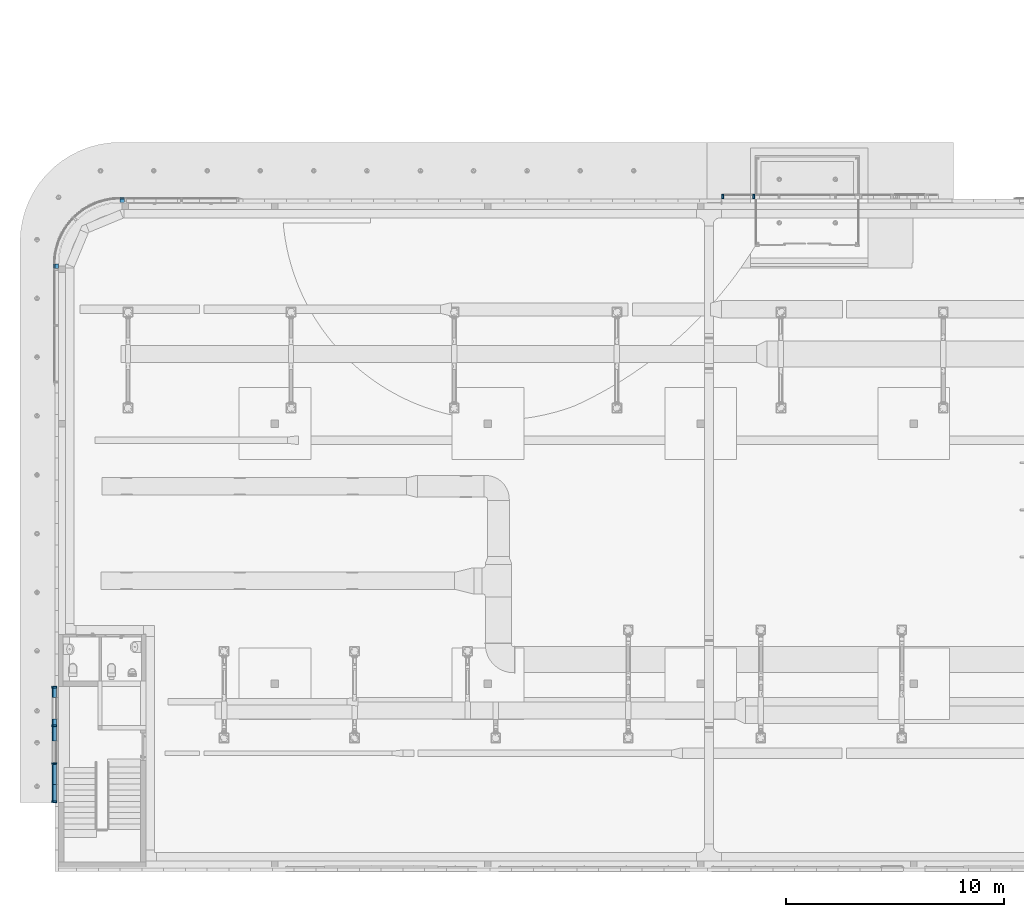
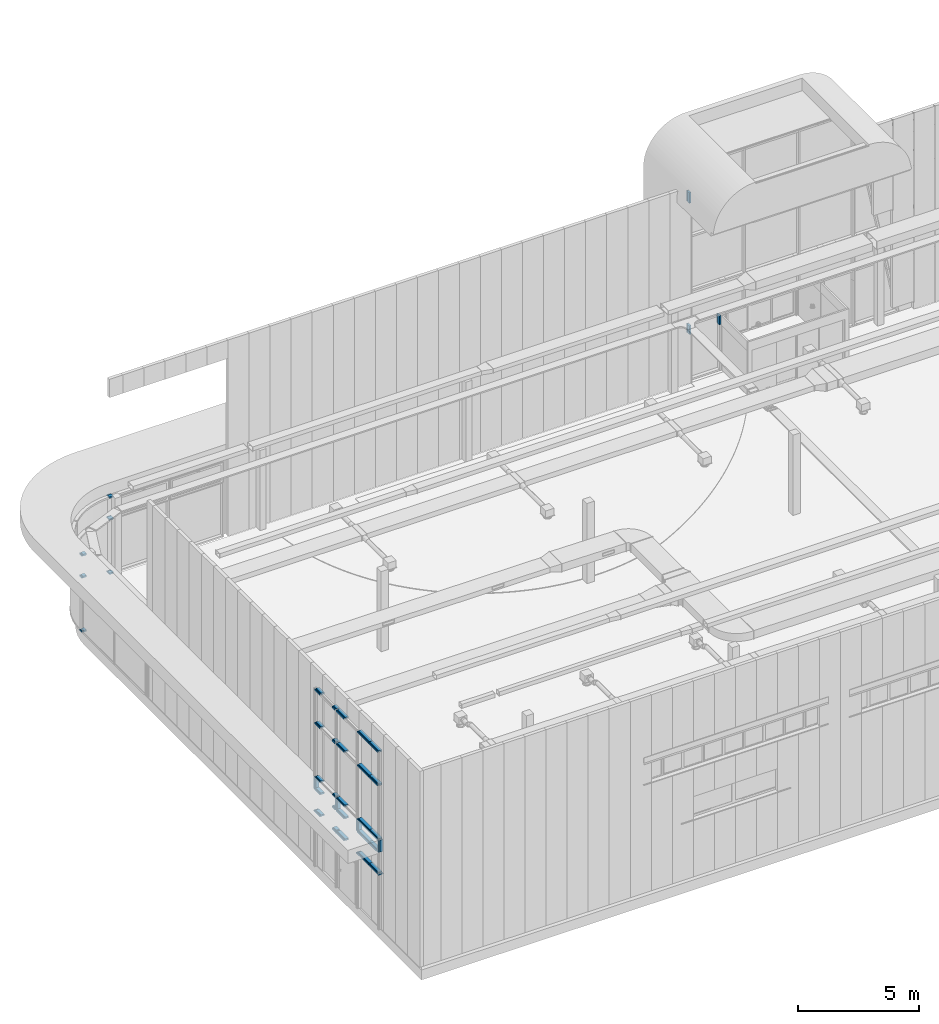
# One storey, part 191 of 302: 42 members, 4 elements without a shape of their own.
"""IFC2X3 building model written with IfcOpenShell, lengths in metres."""

from ifc_helpers import new_model, entity, si_unit, converted_unit, derived_unit, direction, frame, origin, place, context, subcontext, project, spatial, polyline, outline, extrude, source, transform, mapped, material, type_object, type_shapes, element, aggregate, save


model = new_model("IFC2X3")

# Units and contexts
model_context = context("Model", 3, precision=1e-05, world=origin(), true_north=direction((6.12303176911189e-17, 1.0)))
body_context = subcontext(model_context, "Body", "Model", "MODEL_VIEW")
ifc_project = project(units=[si_unit("LENGTHUNIT", "METRE"), si_unit("AREAUNIT", "SQUARE_METRE"), si_unit("VOLUMEUNIT", "CUBIC_METRE"), converted_unit("PLANEANGLEUNIT", "DEGREE", entity("IfcRatioMeasure", 0.0174532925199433), si_unit("PLANEANGLEUNIT", "RADIAN"), dimensions=[0, 0, 0, 0, 0, 0, 0]), si_unit("MASSUNIT", "GRAM", prefix="KILO"), derived_unit("MASSDENSITYUNIT", [(si_unit("MASSUNIT", "GRAM", prefix="KILO"), 1), (si_unit("LENGTHUNIT", "METRE"), -3)]), derived_unit("MOMENTOFINERTIAUNIT", [(si_unit("LENGTHUNIT", "METRE"), 4)]), si_unit("TIMEUNIT", "SECOND"), si_unit("FREQUENCYUNIT", "HERTZ"), si_unit("THERMODYNAMICTEMPERATUREUNIT", "DEGREE_CELSIUS"), derived_unit("THERMALTRANSMITTANCEUNIT", [(si_unit("MASSUNIT", "GRAM", prefix="KILO"), 1), (si_unit("THERMODYNAMICTEMPERATUREUNIT", "KELVIN"), -1), (si_unit("TIMEUNIT", "SECOND"), -3)]), derived_unit("VOLUMETRICFLOWRATEUNIT", [(si_unit("LENGTHUNIT", "METRE"), 3), (si_unit("TIMEUNIT", "SECOND"), -1)]), si_unit("ELECTRICCURRENTUNIT", "AMPERE"), si_unit("ELECTRICVOLTAGEUNIT", "VOLT"), si_unit("POWERUNIT", "WATT"), si_unit("FORCEUNIT", "NEWTON", prefix="KILO"), si_unit("ILLUMINANCEUNIT", "LUX"), si_unit("LUMINOUSFLUXUNIT", "LUMEN"), si_unit("LUMINOUSINTENSITYUNIT", "CANDELA"), derived_unit("USERDEFINED", [(si_unit("MASSUNIT", "GRAM", prefix="KILO"), -1), (si_unit("LENGTHUNIT", "METRE"), -2), (si_unit("TIMEUNIT", "SECOND"), 3), (si_unit("LUMINOUSFLUXUNIT", "LUMEN"), 1)]), derived_unit("LINEARVELOCITYUNIT", [(si_unit("LENGTHUNIT", "METRE"), 1), (si_unit("TIMEUNIT", "SECOND"), -1)]), si_unit("PRESSUREUNIT", "PASCAL"), derived_unit("USERDEFINED", [(si_unit("LENGTHUNIT", "METRE"), -2), (si_unit("MASSUNIT", "GRAM", prefix="KILO"), 1), (si_unit("TIMEUNIT", "SECOND"), -2)]), derived_unit("LINEARFORCEUNIT", [(si_unit("MASSUNIT", "GRAM", prefix="KILO"), 1), (si_unit("LENGTHUNIT", "METRE"), 1), (si_unit("TIMEUNIT", "SECOND"), -2), (si_unit("LENGTHUNIT", "METRE"), -1)]), derived_unit("PLANARFORCEUNIT", [(si_unit("MASSUNIT", "GRAM", prefix="KILO"), 1), (si_unit("LENGTHUNIT", "METRE"), 1), (si_unit("TIMEUNIT", "SECOND"), -2), (si_unit("LENGTHUNIT", "METRE"), -2)])], contexts=[model_context])

# Site, building, storey
site_placement = place(None, origin())
site = spatial("IfcSite", under=ifc_project, at=site_placement, Name="Default", CompositionType="ELEMENT")
building_placement = place(site_placement, origin())
building = spatial("IfcBuilding", under=site, at=building_placement, CompositionType="ELEMENT")
storey_placement = place(building_placement, frame((0.0, 0.0, -1.3)))
storey = spatial("IfcBuildingStorey", under=building, at=storey_placement, Name="00_EG", CompositionType="ELEMENT", Elevation=-1.3)

# Curtain wall, members
curtain_wall_type_1 = type_object("IfcCurtainWallType", Name="Fassade:Sandwichpaneele 16cm", PredefinedType="NOTDEFINED")
curtain_wall_1_placement = place(storey_placement, frame((0.0, 0.0, 1.3)))
curtain_wall_1 = element("IfcCurtainWall", 1, at=curtain_wall_1_placement, inside=storey, type_object=curtain_wall_type_1, Name="Fassade:Sandwichpaneele 16cm", ObjectType="Fassade:Sandwichpaneele 16cm")
ifc_material = material(Name="Prepainted_Steel-ArcelorMittal_Construction_HAIRULTRA-35-CORAL-4309-[RAL_3000]")
member_type_1 = type_object("IfcMemberType", Name="Rectangular Mullion:Fassadenrahmen Typ 1", PredefinedType="MULLION", material=ifc_material)
shared_shape_1 = source(origin(), body_context, "Body", "SweptSolid", [
    extrude(outline(polyline([(-0.155, -0.04), (0.00499999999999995, -0.04), (0.00499999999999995, -0.02), (0.04, -0.02), (0.04, -0.04), (0.065, -0.04), (0.065, 0.04), (0.04, 0.04), (0.04, 0.02), (0.00499999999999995, 0.02), (0.00499999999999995, 0.04), (-0.155, 0.04), (-0.155, -0.04)])), frame((0.0, -0.155, -0.6), z_axis=(0.0, 0.0, 1.0), x_axis=(0.0, -1.0, 0.0)), (0.0, 0.0, 1.0), 0.6),
])
type_shapes(member_type_1, [shared_shape_1])
member_1_placement = place(storey_placement, frame((-266.760111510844, 23.283088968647, 5.17), z_axis=(0.0, 0.0, -1.0), x_axis=(0.0, 1.0, 0.0)))
member_1 = element("IfcMember", 2, at=member_1_placement, type_object=member_type_1, material=ifc_material, Name="Rectangular Mullion:Fassadenrahmen Typ 1", ObjectType="Rectangular Mullion:Fassadenrahmen Typ 1", context=body_context, shape_type="MappedRepresentation", body=[
    mapped(shared_shape_1, transform((0.0, 0.0, 0.0), scale=1.0)),
])
member_2_placement = place(storey_placement, frame((-266.760111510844, 18.023088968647, 5.17), z_axis=(0.0, 0.0, -1.0), x_axis=(0.0, 1.0, 0.0)))
member_2 = element("IfcMember", 3, at=member_2_placement, type_object=member_type_1, material=ifc_material, Name="Rectangular Mullion:Fassadenrahmen Typ 1", ObjectType="Rectangular Mullion:Fassadenrahmen Typ 1", context=body_context, shape_type="MappedRepresentation", body=[
    mapped(shared_shape_1, transform((0.0, 0.0, 0.0), scale=1.0)),
])
member_3_placement = place(storey_placement, frame((-266.760111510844, 21.5230889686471, 5.17), z_axis=(0.0, 0.0, -1.0), x_axis=(0.0, 1.0, 0.0)))
member_3 = element("IfcMember", 4, at=member_3_placement, type_object=member_type_1, material=ifc_material, Name="Rectangular Mullion:Fassadenrahmen Typ 1", ObjectType="Rectangular Mullion:Fassadenrahmen Typ 1", context=body_context, shape_type="MappedRepresentation", body=[
    mapped(shared_shape_1, transform((0.0, 0.0, 0.0), scale=1.0)),
])
member_4_placement = place(storey_placement, frame((-266.760111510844, 19.7830889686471, 5.17), z_axis=(0.0, 0.0, -1.0), x_axis=(0.0, 1.0, 0.0)))
member_4 = element("IfcMember", 5, at=member_4_placement, type_object=member_type_1, material=ifc_material, Name="Rectangular Mullion:Fassadenrahmen Typ 1", ObjectType="Rectangular Mullion:Fassadenrahmen Typ 1", context=body_context, shape_type="MappedRepresentation", body=[
    mapped(shared_shape_1, transform((0.0, 0.0, 0.0), scale=1.0)),
])
member_type_2 = type_object("IfcMemberType", Name="Rectangular Mullion:Fassadenrahmen Typ 1", PredefinedType="MULLION", material=ifc_material)
shared_shape_2 = source(origin(), body_context, "Body", "SweptSolid", [
    extrude(outline(polyline([(-0.155, -0.04), (0.00499999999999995, -0.04), (0.00499999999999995, -0.02), (0.04, -0.02), (0.04, -0.04), (0.065, -0.04), (0.065, 0.04), (0.04, 0.04), (0.04, 0.02), (0.00499999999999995, 0.02), (0.00499999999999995, 0.04), (-0.155, 0.04), (-0.155, -0.04)])), frame((0.0, -0.155, -0.755000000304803), z_axis=(0.0, 0.0, 1.0), x_axis=(0.0, -1.0, 0.0)), (0.0, 0.0, 1.0), 0.755000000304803),
])
type_shapes(member_type_2, [shared_shape_2])
member_5_placement = place(storey_placement, frame((-266.760111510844, 18.8180889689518, 10.18), z_axis=(0.0, 1.0, 0.0), x_axis=(0.0, 0.0, 1.0)))
member_5 = element("IfcMember", 6, at=member_5_placement, type_object=member_type_2, material=ifc_material, Name="Rectangular Mullion:Fassadenrahmen Typ 1", ObjectType="Rectangular Mullion:Fassadenrahmen Typ 1", context=body_context, shape_type="MappedRepresentation", body=[
    mapped(shared_shape_2, transform((0.0, 0.0, 0.0), scale=1.0)),
])
member_6_placement = place(storey_placement, frame((-266.760111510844, 18.8180889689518, 8.5), z_axis=(0.0, 1.0, 0.0), x_axis=(0.0, 0.0, 1.0)))
member_6 = element("IfcMember", 7, at=member_6_placement, type_object=member_type_2, material=ifc_material, Name="Rectangular Mullion:Fassadenrahmen Typ 1", ObjectType="Rectangular Mullion:Fassadenrahmen Typ 1", context=body_context, shape_type="MappedRepresentation", body=[
    mapped(shared_shape_2, transform((0.0, 0.0, 0.0), scale=1.0)),
])
member_7_placement = place(storey_placement, frame((-266.760111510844, 18.8180889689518, 5.77), z_axis=(0.0, 1.0, 0.0), x_axis=(0.0, 0.0, 1.0)))
member_7 = element("IfcMember", 8, at=member_7_placement, type_object=member_type_2, material=ifc_material, Name="Rectangular Mullion:Fassadenrahmen Typ 1", ObjectType="Rectangular Mullion:Fassadenrahmen Typ 1", context=body_context, shape_type="MappedRepresentation", body=[
    mapped(shared_shape_2, transform((0.0, 0.0, 0.0), scale=1.0)),
])
member_8_placement = place(storey_placement, frame((-266.760111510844, 18.8180889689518, 5.17), z_axis=(0.0, 1.0, 0.0), x_axis=(0.0, 0.0, 1.0)))
member_8 = element("IfcMember", 9, at=member_8_placement, type_object=member_type_2, material=ifc_material, Name="Rectangular Mullion:Fassadenrahmen Typ 1", ObjectType="Rectangular Mullion:Fassadenrahmen Typ 1", context=body_context, shape_type="MappedRepresentation", body=[
    mapped(shared_shape_2, transform((0.0, 0.0, 0.0), scale=1.0)),
])
member_9_placement = place(storey_placement, frame((-266.760111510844, 18.8180889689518, 4.07), z_axis=(0.0, 1.0, 0.0), x_axis=(0.0, 0.0, 1.0)))
member_9 = element("IfcMember", 10, at=member_9_placement, type_object=member_type_2, material=ifc_material, Name="Rectangular Mullion:Fassadenrahmen Typ 1", ObjectType="Rectangular Mullion:Fassadenrahmen Typ 1", context=body_context, shape_type="MappedRepresentation", body=[
    mapped(shared_shape_2, transform((0.0, 0.0, 0.0), scale=1.0)),
])
member_type_3 = type_object("IfcMemberType", Name="Rectangular Mullion:Fassadenrahmen Typ 1", PredefinedType="MULLION", material=ifc_material)
shared_shape_3 = source(origin(), body_context, "Body", "SweptSolid", [
    extrude(outline(polyline([(-0.155, -0.04), (0.00499999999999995, -0.04), (0.00499999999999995, -0.02), (0.04, -0.02), (0.04, -0.04), (0.065, -0.04), (0.065, 0.04), (0.04, 0.04), (0.04, 0.02), (0.00499999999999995, 0.02), (0.00499999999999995, 0.04), (-0.155, 0.04), (-0.155, -0.04)])), frame((0.0, -0.155, -0.424999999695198), z_axis=(0.0, 0.0, 1.0), x_axis=(0.0, -1.0, 0.0)), (0.0, 0.0, 1.0), 0.424999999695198),
])
type_shapes(member_type_3, [shared_shape_3])
member_10_placement = place(storey_placement, frame((-266.760111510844, 23.243088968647, 10.18), z_axis=(0.0, 1.0, 0.0), x_axis=(0.0, 0.0, 1.0)))
member_10 = element("IfcMember", 11, at=member_10_placement, type_object=member_type_3, material=ifc_material, Name="Rectangular Mullion:Fassadenrahmen Typ 1", ObjectType="Rectangular Mullion:Fassadenrahmen Typ 1", context=body_context, shape_type="MappedRepresentation", body=[
    mapped(shared_shape_3, transform((0.0, 0.0, 0.0), scale=1.0)),
])
member_11_placement = place(storey_placement, frame((-266.760111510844, 23.243088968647, 8.5), z_axis=(0.0, 1.0, 0.0), x_axis=(0.0, 0.0, 1.0)))
member_11 = element("IfcMember", 12, at=member_11_placement, type_object=member_type_3, material=ifc_material, Name="Rectangular Mullion:Fassadenrahmen Typ 1", ObjectType="Rectangular Mullion:Fassadenrahmen Typ 1", context=body_context, shape_type="MappedRepresentation", body=[
    mapped(shared_shape_3, transform((0.0, 0.0, 0.0), scale=1.0)),
])
member_12_placement = place(storey_placement, frame((-266.760111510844, 23.243088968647, 5.77), z_axis=(0.0, 1.0, 0.0), x_axis=(0.0, 0.0, 1.0)))
member_12 = element("IfcMember", 13, at=member_12_placement, type_object=member_type_3, material=ifc_material, Name="Rectangular Mullion:Fassadenrahmen Typ 1", ObjectType="Rectangular Mullion:Fassadenrahmen Typ 1", context=body_context, shape_type="MappedRepresentation", body=[
    mapped(shared_shape_3, transform((0.0, 0.0, 0.0), scale=1.0)),
])
member_13_placement = place(storey_placement, frame((-266.760111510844, 23.243088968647, 5.17), z_axis=(0.0, 1.0, 0.0), x_axis=(0.0, 0.0, 1.0)))
member_13 = element("IfcMember", 14, at=member_13_placement, type_object=member_type_3, material=ifc_material, Name="Rectangular Mullion:Fassadenrahmen Typ 1", ObjectType="Rectangular Mullion:Fassadenrahmen Typ 1", context=body_context, shape_type="MappedRepresentation", body=[
    mapped(shared_shape_3, transform((0.0, 0.0, 0.0), scale=1.0)),
])
member_14_placement = place(storey_placement, frame((-266.760111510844, 23.243088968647, 4.07), z_axis=(0.0, 1.0, 0.0), x_axis=(0.0, 0.0, 1.0)))
member_14 = element("IfcMember", 15, at=member_14_placement, type_object=member_type_3, material=ifc_material, Name="Rectangular Mullion:Fassadenrahmen Typ 1", ObjectType="Rectangular Mullion:Fassadenrahmen Typ 1", context=body_context, shape_type="MappedRepresentation", body=[
    mapped(shared_shape_3, transform((0.0, 0.0, 0.0), scale=1.0)),
])
member_type_4 = type_object("IfcMemberType", Name="Rectangular Mullion:Fassadenrahmen Typ 1", PredefinedType="MULLION", material=ifc_material)
shared_shape_4 = source(origin(), body_context, "Body", "SweptSolid", [
    extrude(outline(polyline([(-0.155, -0.04), (0.00499999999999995, -0.04), (0.00499999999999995, -0.02), (0.04, -0.02), (0.04, -0.04), (0.065, -0.04), (0.065, 0.04), (0.04, 0.04), (0.04, 0.02), (0.00499999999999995, 0.02), (0.00499999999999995, 0.04), (-0.155, 0.04), (-0.155, -0.04)])), frame((0.0, -0.155, -0.664999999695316), z_axis=(0.0, 0.0, 1.0), x_axis=(0.0, -1.0, 0.0)), (0.0, 0.0, 1.0), 0.664999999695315),
])
type_shapes(member_type_4, [shared_shape_4])
member_15_placement = place(storey_placement, frame((-266.760111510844, 21.4830889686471, 10.18), z_axis=(0.0, 1.0, 0.0), x_axis=(0.0, 0.0, 1.0)))
member_15 = element("IfcMember", 16, at=member_15_placement, type_object=member_type_4, material=ifc_material, Name="Rectangular Mullion:Fassadenrahmen Typ 1", ObjectType="Rectangular Mullion:Fassadenrahmen Typ 1", context=body_context, shape_type="MappedRepresentation", body=[
    mapped(shared_shape_4, transform((0.0, 0.0, 0.0), scale=1.0)),
])
member_16_placement = place(storey_placement, frame((-266.760111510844, 21.4830889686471, 8.5), z_axis=(0.0, 1.0, 0.0), x_axis=(0.0, 0.0, 1.0)))
member_16 = element("IfcMember", 17, at=member_16_placement, type_object=member_type_4, material=ifc_material, Name="Rectangular Mullion:Fassadenrahmen Typ 1", ObjectType="Rectangular Mullion:Fassadenrahmen Typ 1", context=body_context, shape_type="MappedRepresentation", body=[
    mapped(shared_shape_4, transform((0.0, 0.0, 0.0), scale=1.0)),
])
member_17_placement = place(storey_placement, frame((-266.760111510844, 21.4830889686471, 5.77), z_axis=(0.0, 1.0, 0.0), x_axis=(0.0, 0.0, 1.0)))
member_17 = element("IfcMember", 18, at=member_17_placement, type_object=member_type_4, material=ifc_material, Name="Rectangular Mullion:Fassadenrahmen Typ 1", ObjectType="Rectangular Mullion:Fassadenrahmen Typ 1", context=body_context, shape_type="MappedRepresentation", body=[
    mapped(shared_shape_4, transform((0.0, 0.0, 0.0), scale=1.0)),
])
member_18_placement = place(storey_placement, frame((-266.760111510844, 21.4830889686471, 5.17), z_axis=(0.0, 1.0, 0.0), x_axis=(0.0, 0.0, 1.0)))
member_18 = element("IfcMember", 19, at=member_18_placement, type_object=member_type_4, material=ifc_material, Name="Rectangular Mullion:Fassadenrahmen Typ 1", ObjectType="Rectangular Mullion:Fassadenrahmen Typ 1", context=body_context, shape_type="MappedRepresentation", body=[
    mapped(shared_shape_4, transform((0.0, 0.0, 0.0), scale=1.0)),
])
member_19_placement = place(storey_placement, frame((-266.760111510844, 21.4830889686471, 4.07), z_axis=(0.0, 1.0, 0.0), x_axis=(0.0, 0.0, 1.0)))
member_19 = element("IfcMember", 20, at=member_19_placement, type_object=member_type_4, material=ifc_material, Name="Rectangular Mullion:Fassadenrahmen Typ 1", ObjectType="Rectangular Mullion:Fassadenrahmen Typ 1", context=body_context, shape_type="MappedRepresentation", body=[
    mapped(shared_shape_4, transform((0.0, 0.0, 0.0), scale=1.0)),
])
member_type_5 = type_object("IfcMemberType", Name="Rectangular Mullion:Fassadenrahmen Typ 1", PredefinedType="MULLION", material=ifc_material)
shared_shape_5 = source(origin(), body_context, "Body", "SweptSolid", [
    extrude(outline(polyline([(-0.155, -0.04), (0.00499999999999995, -0.04), (0.00499999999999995, -0.02), (0.04, -0.02), (0.04, -0.04), (0.065, -0.04), (0.065, 0.04), (0.04, 0.04), (0.04, 0.02), (0.00499999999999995, 0.02), (0.00499999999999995, 0.04), (-0.155, 0.04), (-0.155, -0.04)])), frame((0.0, -0.155, -0.92499999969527), z_axis=(0.0, 0.0, 1.0), x_axis=(0.0, -1.0, 0.0)), (0.0, 0.0, 1.0), 0.924999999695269),
])
type_shapes(member_type_5, [shared_shape_5])
member_20_placement = place(storey_placement, frame((-266.760111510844, 19.7430889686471, 10.18), z_axis=(0.0, 1.0, 0.0), x_axis=(0.0, 0.0, 1.0)))
member_20 = element("IfcMember", 21, at=member_20_placement, type_object=member_type_5, material=ifc_material, Name="Rectangular Mullion:Fassadenrahmen Typ 1", ObjectType="Rectangular Mullion:Fassadenrahmen Typ 1", context=body_context, shape_type="MappedRepresentation", body=[
    mapped(shared_shape_5, transform((0.0, 0.0, 0.0), scale=1.0)),
])
member_21_placement = place(storey_placement, frame((-266.760111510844, 19.7430889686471, 8.5), z_axis=(0.0, 1.0, 0.0), x_axis=(0.0, 0.0, 1.0)))
member_21 = element("IfcMember", 22, at=member_21_placement, type_object=member_type_5, material=ifc_material, Name="Rectangular Mullion:Fassadenrahmen Typ 1", ObjectType="Rectangular Mullion:Fassadenrahmen Typ 1", context=body_context, shape_type="MappedRepresentation", body=[
    mapped(shared_shape_5, transform((0.0, 0.0, 0.0), scale=1.0)),
])
member_22_placement = place(storey_placement, frame((-266.760111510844, 19.7430889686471, 5.77), z_axis=(0.0, 1.0, 0.0), x_axis=(0.0, 0.0, 1.0)))
member_22 = element("IfcMember", 23, at=member_22_placement, type_object=member_type_5, material=ifc_material, Name="Rectangular Mullion:Fassadenrahmen Typ 1", ObjectType="Rectangular Mullion:Fassadenrahmen Typ 1", context=body_context, shape_type="MappedRepresentation", body=[
    mapped(shared_shape_5, transform((0.0, 0.0, 0.0), scale=1.0)),
])
member_23_placement = place(storey_placement, frame((-266.760111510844, 19.7430889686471, 5.17), z_axis=(0.0, 1.0, 0.0), x_axis=(0.0, 0.0, 1.0)))
member_23 = element("IfcMember", 24, at=member_23_placement, type_object=member_type_5, material=ifc_material, Name="Rectangular Mullion:Fassadenrahmen Typ 1", ObjectType="Rectangular Mullion:Fassadenrahmen Typ 1", context=body_context, shape_type="MappedRepresentation", body=[
    mapped(shared_shape_5, transform((0.0, 0.0, 0.0), scale=1.0)),
])
member_24_placement = place(storey_placement, frame((-266.760111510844, 19.7430889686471, 4.07), z_axis=(0.0, 1.0, 0.0), x_axis=(0.0, 0.0, 1.0)))
member_24 = element("IfcMember", 25, at=member_24_placement, type_object=member_type_5, material=ifc_material, Name="Rectangular Mullion:Fassadenrahmen Typ 1", ObjectType="Rectangular Mullion:Fassadenrahmen Typ 1", context=body_context, shape_type="MappedRepresentation", body=[
    mapped(shared_shape_5, transform((0.0, 0.0, 0.0), scale=1.0)),
])
member_type_6 = type_object("IfcMemberType", Name="Rectangular Mullion:Fassadenrahmen Typ 1", PredefinedType="MULLION", material=ifc_material)
shared_shape_6 = source(origin(), body_context, "Body", "SweptSolid", [
    extrude(outline(polyline([(-0.155, -0.04), (0.00499999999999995, -0.04), (0.00499999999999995, -0.02), (0.04, -0.02), (0.04, -0.04), (0.065, -0.04), (0.065, 0.04), (0.04, 0.04), (0.04, 0.02), (0.00499999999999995, 0.02), (0.00499999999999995, 0.04), (-0.155, 0.04), (-0.155, -0.04)])), frame((0.0, -0.155, -0.255000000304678), z_axis=(0.0, 0.0, 1.0), x_axis=(0.0, -1.0, 0.0)), (0.0, 0.0, 1.0), 0.255000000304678),
])
type_shapes(member_type_6, [shared_shape_6])
member_25_placement = place(storey_placement, frame((-266.760111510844, 21.8180889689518, 10.18), z_axis=(0.0, 1.0, 0.0), x_axis=(0.0, 0.0, 1.0)))
member_25 = element("IfcMember", 26, at=member_25_placement, type_object=member_type_6, material=ifc_material, Name="Rectangular Mullion:Fassadenrahmen Typ 1", ObjectType="Rectangular Mullion:Fassadenrahmen Typ 1", context=body_context, shape_type="MappedRepresentation", body=[
    mapped(shared_shape_6, transform((0.0, 0.0, 0.0), scale=1.0)),
])
member_26_placement = place(storey_placement, frame((-266.760111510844, 21.8180889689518, 8.5), z_axis=(0.0, 1.0, 0.0), x_axis=(0.0, 0.0, 1.0)))
member_26 = element("IfcMember", 27, at=member_26_placement, type_object=member_type_6, material=ifc_material, Name="Rectangular Mullion:Fassadenrahmen Typ 1", ObjectType="Rectangular Mullion:Fassadenrahmen Typ 1", context=body_context, shape_type="MappedRepresentation", body=[
    mapped(shared_shape_6, transform((0.0, 0.0, 0.0), scale=1.0)),
])
member_27_placement = place(storey_placement, frame((-266.760111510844, 21.8180889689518, 5.77), z_axis=(0.0, 1.0, 0.0), x_axis=(0.0, 0.0, 1.0)))
member_27 = element("IfcMember", 28, at=member_27_placement, type_object=member_type_6, material=ifc_material, Name="Rectangular Mullion:Fassadenrahmen Typ 1", ObjectType="Rectangular Mullion:Fassadenrahmen Typ 1", context=body_context, shape_type="MappedRepresentation", body=[
    mapped(shared_shape_6, transform((0.0, 0.0, 0.0), scale=1.0)),
])
member_28_placement = place(storey_placement, frame((-266.760111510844, 21.8180889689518, 5.17), z_axis=(0.0, 1.0, 0.0), x_axis=(0.0, 0.0, 1.0)))
member_28 = element("IfcMember", 29, at=member_28_placement, type_object=member_type_6, material=ifc_material, Name="Rectangular Mullion:Fassadenrahmen Typ 1", ObjectType="Rectangular Mullion:Fassadenrahmen Typ 1", context=body_context, shape_type="MappedRepresentation", body=[
    mapped(shared_shape_6, transform((0.0, 0.0, 0.0), scale=1.0)),
])
member_29_placement = place(storey_placement, frame((-266.760111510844, 21.8180889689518, 4.07), z_axis=(0.0, 1.0, 0.0), x_axis=(0.0, 0.0, 1.0)))
member_29 = element("IfcMember", 30, at=member_29_placement, type_object=member_type_6, material=ifc_material, Name="Rectangular Mullion:Fassadenrahmen Typ 1", ObjectType="Rectangular Mullion:Fassadenrahmen Typ 1", context=body_context, shape_type="MappedRepresentation", body=[
    mapped(shared_shape_6, transform((0.0, 0.0, 0.0), scale=1.0)),
])
member_type_7 = type_object("IfcMemberType", Name="Rectangular Mullion:Fassadenrahmen Typ 1", PredefinedType="MULLION", material=ifc_material)
shared_shape_7 = source(origin(), body_context, "Body", "SweptSolid", [
    extrude(outline(polyline([(-0.155, -0.04), (0.00499999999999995, -0.04), (0.00499999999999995, -0.02), (0.04, -0.02), (0.04, -0.04), (0.065, -0.04), (0.065, 0.04), (0.04, 0.04), (0.04, 0.02), (0.00499999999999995, 0.02), (0.00499999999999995, 0.04), (-0.155, 0.04), (-0.155, -0.04)])), frame((0.0, -0.155, -0.0400000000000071), z_axis=(0.0, 0.0, 1.0), x_axis=(0.0, -1.0, 0.0)), (0.0, 0.0, 1.0), 0.0400000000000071),
])
type_shapes(member_type_7, [shared_shape_7])
member_30_placement = place(storey_placement, frame((-266.760111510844, 23.283088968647, 4.02999999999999), z_axis=(0.0, 0.0, -1.0), x_axis=(0.0, 1.0, 0.0)))
member_30 = element("IfcMember", 31, at=member_30_placement, type_object=member_type_7, material=ifc_material, Name="Rectangular Mullion:Fassadenrahmen Typ 1", ObjectType="Rectangular Mullion:Fassadenrahmen Typ 1", context=body_context, shape_type="MappedRepresentation", body=[
    mapped(shared_shape_7, transform((0.0, 0.0, 0.0), scale=1.0)),
])
member_31_placement = place(storey_placement, frame((-266.760111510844, 18.023088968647, 4.02999999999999), z_axis=(0.0, 0.0, -1.0), x_axis=(0.0, 1.0, 0.0)))
member_31 = element("IfcMember", 32, at=member_31_placement, type_object=member_type_7, material=ifc_material, Name="Rectangular Mullion:Fassadenrahmen Typ 1", ObjectType="Rectangular Mullion:Fassadenrahmen Typ 1", context=body_context, shape_type="MappedRepresentation", body=[
    mapped(shared_shape_7, transform((0.0, 0.0, 0.0), scale=1.0)),
])
member_32_placement = place(storey_placement, frame((-266.760111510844, 21.5230889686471, 4.02999999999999), z_axis=(0.0, 0.0, -1.0), x_axis=(0.0, 1.0, 0.0)))
member_32 = element("IfcMember", 33, at=member_32_placement, type_object=member_type_7, material=ifc_material, Name="Rectangular Mullion:Fassadenrahmen Typ 1", ObjectType="Rectangular Mullion:Fassadenrahmen Typ 1", context=body_context, shape_type="MappedRepresentation", body=[
    mapped(shared_shape_7, transform((0.0, 0.0, 0.0), scale=1.0)),
])
member_33_placement = place(storey_placement, frame((-266.760111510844, 19.7830889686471, 4.02999999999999), z_axis=(0.0, 0.0, -1.0), x_axis=(0.0, 1.0, 0.0)))
member_33 = element("IfcMember", 34, at=member_33_placement, type_object=member_type_7, material=ifc_material, Name="Rectangular Mullion:Fassadenrahmen Typ 1", ObjectType="Rectangular Mullion:Fassadenrahmen Typ 1", context=body_context, shape_type="MappedRepresentation", body=[
    mapped(shared_shape_7, transform((0.0, 0.0, 0.0), scale=1.0)),
])
aggregate(curtain_wall_1, [member_1, member_5, member_10, member_15, member_20, member_6, member_11, member_16, member_21, member_2, member_7, member_12, member_17, member_22, member_8, member_13, member_18, member_23, member_9, member_14, member_24, member_25, member_26, member_27, member_28, member_29, member_3, member_4, member_30, member_31, member_32, member_33, member_19])

curtain_wall_type_2 = type_object("IfcCurtainWallType", Name="Fassade:Glasfassade", PredefinedType="NOTDEFINED")
curtain_wall_2_placement = place(storey_placement, frame((0.0, 0.0, 1.3)))
curtain_wall_2 = element("IfcCurtainWall", 35, at=curtain_wall_2_placement, inside=storey, type_object=curtain_wall_type_2, Name="Fassade:Glasfassade", ObjectType="Fassade:Glasfassade")
member_type_8 = type_object("IfcMemberType", Name="Rectangular Mullion:Fassadenrahmen Typ 1", PredefinedType="MULLION", material=ifc_material)
shared_shape_8 = source(origin(), body_context, "Body", "SweptSolid", [
    extrude(outline(polyline([(-0.065, -0.04), (-0.04, -0.04), (-0.04, -0.02), (-0.00499999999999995, -0.02), (-0.00499999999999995, -0.04), (0.155, -0.04), (0.155, 0.04), (-0.00499999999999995, 0.04), (-0.00499999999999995, 0.02), (-0.04, 0.02), (-0.04, 0.04), (-0.065, 0.04), (-0.065, -0.04)])), frame((0.0, 0.155, -0.450000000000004), z_axis=(0.0, 0.0, 1.0), x_axis=(0.0, -1.0, 0.0)), (0.0, 0.0, 1.0), 0.450000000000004),
])
type_shapes(member_type_8, [shared_shape_8])
member_34_placement = place(storey_placement, frame((-234.713861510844, 45.738088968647, 3.57999999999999), z_axis=(0.0, 0.0, -1.0), x_axis=(-1.0, 0.0, 0.0)))
member_34 = element("IfcMember", 36, at=member_34_placement, type_object=member_type_8, material=ifc_material, Name="Rectangular Mullion:Fassadenrahmen Typ 1", ObjectType="Rectangular Mullion:Fassadenrahmen Typ 1", context=body_context, shape_type="MappedRepresentation", body=[
    mapped(shared_shape_8, transform((0.0, 0.0, 0.0), scale=1.0)),
])
member_type_9 = type_object("IfcMemberType", Name="Rectangular Mullion:Fassadenrahmen Typ 1", PredefinedType="MULLION", material=ifc_material)
shared_shape_9 = source(origin(), body_context, "Body", "SweptSolid", [
    extrude(outline(polyline([(-0.065, -0.04), (-0.04, -0.04), (-0.04, -0.02), (-0.00499999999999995, -0.02), (-0.00499999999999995, -0.04), (0.155, -0.04), (0.155, 0.04), (-0.00499999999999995, 0.04), (-0.00499999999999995, 0.02), (-0.04, 0.02), (-0.04, 0.04), (-0.065, 0.04), (-0.065, -0.04)])), frame((-0.04, 0.155, -0.450000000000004), z_axis=(0.0, 0.0, 1.0), x_axis=(0.0, -1.0, 0.0)), (0.0, 0.0, 1.0), 0.450000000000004),
])
type_shapes(member_type_9, [shared_shape_9])
member_35_placement = place(storey_placement, frame((-236.178861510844, 45.738088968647, 3.57999999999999), z_axis=(0.0, 0.0, -1.0), x_axis=(-1.0, 0.0, 0.0)))
member_35 = element("IfcMember", 37, at=member_35_placement, type_object=member_type_9, material=ifc_material, Name="Rectangular Mullion:Fassadenrahmen Typ 1", ObjectType="Rectangular Mullion:Fassadenrahmen Typ 1", context=body_context, shape_type="MappedRepresentation", body=[
    mapped(shared_shape_9, transform((0.0, 0.0, 0.0), scale=1.0)),
])
member_type_10 = type_object("IfcMemberType", Name="Rectangular Mullion:Fassadenrahmen Typ 1", PredefinedType="MULLION", material=ifc_material)
shared_shape_10 = source(origin(), body_context, "Body", "SweptSolid", [
    extrude(outline(polyline([(-0.065, -0.04), (-0.04, -0.04), (-0.04, -0.02), (-0.00499999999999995, -0.02), (-0.00499999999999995, -0.04), (0.155, -0.04), (0.155, 0.04), (-0.00499999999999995, 0.04), (-0.00499999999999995, 0.02), (-0.04, 0.02), (-0.04, 0.04), (-0.065, 0.04), (-0.065, -0.04)])), frame((-0.04, 0.155, -0.535000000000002), z_axis=(0.0, 0.0, 1.0), x_axis=(0.0, -1.0, 0.0)), (0.0, 0.0, 1.0), 0.535000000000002),
])
type_shapes(member_type_10, [shared_shape_10])
member_36_placement = place(storey_placement, frame((-236.178861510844, 45.738088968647, 10.18), z_axis=(0.0, 0.0, -1.0), x_axis=(-1.0, 0.0, 0.0)))
member_36 = element("IfcMember", 38, at=member_36_placement, type_object=member_type_10, material=ifc_material, Name="Rectangular Mullion:Fassadenrahmen Typ 1", ObjectType="Rectangular Mullion:Fassadenrahmen Typ 1", context=body_context, shape_type="MappedRepresentation", body=[
    mapped(shared_shape_10, transform((0.0, 0.0, 0.0), scale=1.0)),
])
aggregate(curtain_wall_2, [member_34, member_35, member_36])

curtain_wall_3_placement = place(storey_placement, frame((0.0, 0.0, 1.3)))
curtain_wall_3 = element("IfcCurtainWall", 39, at=curtain_wall_3_placement, inside=storey, type_object=curtain_wall_type_2, Name="Fassade:Glasfassade", ObjectType="Fassade:Glasfassade")
member_type_11 = type_object("IfcMemberType", Name="Rectangular Mullion:Fassadenrahmen Typ 1", PredefinedType="MULLION", material=ifc_material)
shared_shape_11 = source(origin(), body_context, "Body", "SweptSolid", [
    extrude(outline(polyline([(-0.065, -0.04), (-0.04, -0.04), (-0.04, -0.02), (-0.00499999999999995, -0.02), (-0.00499999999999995, -0.04), (0.155, -0.04), (0.155, 0.04), (-0.00499999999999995, 0.04), (-0.00499999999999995, 0.02), (-0.04, 0.02), (-0.04, 0.04), (-0.065, 0.04), (-0.065, -0.04)])), frame((0.0, 0.155, -0.193997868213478), z_axis=(0.0, 0.0, 1.0), x_axis=(0.0, -1.0, 0.0)), (0.0, 0.0, 1.0), 0.193997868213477),
])
type_shapes(member_type_11, [shared_shape_11])
member_37_placement = place(storey_placement, frame((-266.680111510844, 42.5440911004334, 4.07000000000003), z_axis=(0.0, -1.0, 0.0), x_axis=(0.0, 0.0, 1.0)))
member_37 = element("IfcMember", 40, at=member_37_placement, type_object=member_type_11, material=ifc_material, Name="Rectangular Mullion:Fassadenrahmen Typ 1", ObjectType="Rectangular Mullion:Fassadenrahmen Typ 1", context=body_context, shape_type="MappedRepresentation", body=[
    mapped(shared_shape_11, transform((0.0, 0.0, 0.0), scale=1.0)),
])
member_type_12 = type_object("IfcMemberType", Name="Rectangular Mullion:Fassadenrahmen Typ 1", PredefinedType="MULLION", material=ifc_material)
shared_shape_12 = source(origin(), body_context, "Body", "SweptSolid", [
    extrude(outline(polyline([(-0.065, -0.04), (-0.04, -0.04), (-0.04, -0.02), (-0.00499999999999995, -0.02), (-0.00499999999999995, -0.04), (0.155, -0.04), (0.155, 0.04), (-0.00499999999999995, 0.04), (-0.00499999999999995, 0.02), (-0.04, 0.02), (-0.04, 0.04), (-0.065, 0.04), (-0.065, -0.04)])), frame((-0.04, 0.155, -0.193997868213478), z_axis=(0.0, 0.0, 1.0), x_axis=(0.0, -1.0, 0.0)), (0.0, 0.0, 1.0), 0.193997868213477),
])
type_shapes(member_type_12, [shared_shape_12])
member_38_placement = place(storey_placement, frame((-266.680111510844, 42.5440911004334, 5.21), z_axis=(0.0, -1.0, 0.0), x_axis=(0.0, 0.0, 1.0)))
member_38 = element("IfcMember", 41, at=member_38_placement, type_object=member_type_12, material=ifc_material, Name="Rectangular Mullion:Fassadenrahmen Typ 1", ObjectType="Rectangular Mullion:Fassadenrahmen Typ 1", context=body_context, shape_type="MappedRepresentation", body=[
    mapped(shared_shape_12, transform((0.0, 0.0, 0.0), scale=1.0)),
])
member_type_13 = type_object("IfcMemberType", Name="Rectangular Mullion:Fassadenrahmen Typ 1", PredefinedType="MULLION", material=ifc_material)
shared_shape_13 = source(origin(), body_context, "Body", "SweptSolid", [
    extrude(outline(polyline([(-0.0649999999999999, -0.04), (-0.04, -0.04), (-0.04, -0.02), (-0.00499999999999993, -0.02), (-0.00499999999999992, -0.04), (0.155, -0.0399999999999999), (0.155, 0.0400000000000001), (-0.00499999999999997, 0.04), (-0.00499999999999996, 0.02), (-0.04, 0.02), (-0.04, 0.04), (-0.065, 0.0399999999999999), (-0.0649999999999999, -0.04)])), frame((-0.04, 0.155, -0.193997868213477), z_axis=(0.0, 0.0, 1.0), x_axis=(0.0, -1.0, 0.0)), (0.0, 0.0, 1.0), 0.193997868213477),
])
type_shapes(member_type_13, [shared_shape_13])
member_39_placement = place(storey_placement, frame((-266.680111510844, 42.7380889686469, 1.3), z_axis=(0.0, 1.0, 0.0), x_axis=(0.0, 0.0, -1.0)))
member_39 = element("IfcMember", 42, at=member_39_placement, type_object=member_type_13, material=ifc_material, Name="Rectangular Mullion:Fassadenrahmen Typ 1", ObjectType="Rectangular Mullion:Fassadenrahmen Typ 1", context=body_context, shape_type="MappedRepresentation", body=[
    mapped(shared_shape_13, transform((0.0, 0.0, 0.0), scale=1.0)),
])
aggregate(curtain_wall_3, [member_37, member_39, member_38])

curtain_wall_4_placement = place(storey_placement, frame((0.0, 0.0, 1.3)))
curtain_wall_4 = element("IfcCurtainWall", 43, at=curtain_wall_4_placement, inside=storey, type_object=curtain_wall_type_2, Name="Fassade:Glasfassade", ObjectType="Fassade:Glasfassade")
member_type_14 = type_object("IfcMemberType", Name="Rectangular Mullion:Fassadenrahmen Typ 1", PredefinedType="MULLION", material=ifc_material)
shared_shape_14 = source(origin(), body_context, "Body", "SweptSolid", [
    extrude(outline(polyline([(-0.155, -0.04), (0.00499999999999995, -0.04), (0.00499999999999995, -0.02), (0.04, -0.02), (0.04, -0.04), (0.065, -0.04), (0.065, 0.04), (0.04, 0.04), (0.04, 0.02), (0.00499999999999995, 0.02), (0.00499999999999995, 0.04), (-0.155, 0.04), (-0.155, -0.04)])), frame((0.0, -0.155, -0.19399786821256), z_axis=(0.0, 0.0, 1.0), x_axis=(0.0, -1.0, 0.0)), (0.0, 0.0, 1.0), 0.19399786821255),
])
type_shapes(member_type_14, [shared_shape_14])
member_40_placement = place(storey_placement, frame((-263.64611364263, 45.578088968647, 4.06999999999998), z_axis=(1.0, 0.0, 0.0), x_axis=(0.0, 0.0, 1.0)))
member_40 = element("IfcMember", 44, at=member_40_placement, type_object=member_type_14, material=ifc_material, Name="Rectangular Mullion:Fassadenrahmen Typ 1", ObjectType="Rectangular Mullion:Fassadenrahmen Typ 1", context=body_context, shape_type="MappedRepresentation", body=[
    mapped(shared_shape_14, transform((0.0, 0.0, 0.0), scale=1.0)),
])
member_type_15 = type_object("IfcMemberType", Name="Rectangular Mullion:Fassadenrahmen Typ 1", PredefinedType="MULLION", material=ifc_material)
shared_shape_15 = source(origin(), body_context, "Body", "SweptSolid", [
    extrude(outline(polyline([(-0.155, -0.04), (0.00499999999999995, -0.04), (0.00499999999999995, -0.02), (0.04, -0.02), (0.04, -0.04), (0.065, -0.04), (0.065, 0.04), (0.04, 0.04), (0.04, 0.02), (0.00499999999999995, 0.02), (0.00499999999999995, 0.04), (-0.155, 0.04), (-0.155, -0.04)])), frame((-0.04, -0.155, -0.19399786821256), z_axis=(0.0, 0.0, 1.0), x_axis=(0.0, -1.0, 0.0)), (0.0, 0.0, 1.0), 0.19399786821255),
])
type_shapes(member_type_15, [shared_shape_15])
member_41_placement = place(storey_placement, frame((-263.64611364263, 45.578088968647, 5.21), z_axis=(1.0, 0.0, 0.0), x_axis=(0.0, 0.0, 1.0)))
member_41 = element("IfcMember", 45, at=member_41_placement, type_object=member_type_15, material=ifc_material, Name="Rectangular Mullion:Fassadenrahmen Typ 1", ObjectType="Rectangular Mullion:Fassadenrahmen Typ 1", context=body_context, shape_type="MappedRepresentation", body=[
    mapped(shared_shape_15, transform((0.0, 0.0, 0.0), scale=1.0)),
])
member_type_16 = type_object("IfcMemberType", Name="Rectangular Mullion:Fassadenrahmen Typ 1", PredefinedType="MULLION", material=ifc_material)
shared_shape_16 = source(origin(), body_context, "Body", "SweptSolid", [
    extrude(outline(polyline([(-0.155, -0.04), (0.00499999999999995, -0.04), (0.00499999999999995, -0.02), (0.04, -0.02), (0.04, -0.04), (0.065, -0.04), (0.065, 0.04), (0.04, 0.04), (0.04, 0.02), (0.00499999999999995, 0.02), (0.00499999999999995, 0.04), (-0.155, 0.04), (-0.155, -0.04)])), frame((-0.04, -0.155, -0.19399786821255), z_axis=(0.0, 0.0, 1.0), x_axis=(0.0, -1.0, 0.0)), (0.0, 0.0, 1.0), 0.19399786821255),
])
type_shapes(member_type_16, [shared_shape_16])
member_42_placement = place(storey_placement, frame((-263.840111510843, 45.578088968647, 1.29999999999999), z_axis=(-1.0, 0.0, 0.0), x_axis=(0.0, 0.0, -1.0)))
member_42 = element("IfcMember", 46, at=member_42_placement, type_object=member_type_16, material=ifc_material, Name="Rectangular Mullion:Fassadenrahmen Typ 1", ObjectType="Rectangular Mullion:Fassadenrahmen Typ 1", context=body_context, shape_type="MappedRepresentation", body=[
    mapped(shared_shape_16, transform((0.0, 0.0, 0.0), scale=1.0)),
])
aggregate(curtain_wall_4, [member_41, member_40, member_42])

save(model, "model.ifc")
